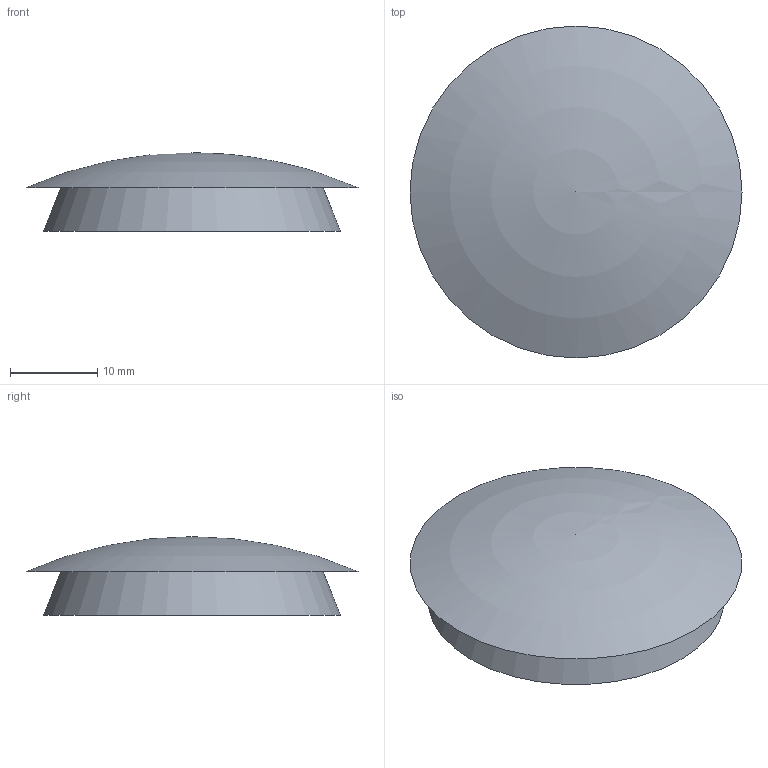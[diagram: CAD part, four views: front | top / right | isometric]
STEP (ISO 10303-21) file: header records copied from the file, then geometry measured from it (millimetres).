
FILE_DESCRIPTION(/* description */ (''),/* implementation_level */ '2;1');
FILE_NAME(/* name */ '\\NAS\db20\PR3-30\DR_PR3-30.stp',/* time_stamp */ '2017-09-22T11:54:49+09:00',/* author */ ('user'),/* organization */ (''),/* preprocessor_version */ 'ST-DEVELOPER v15.6',/* originating_system */ 'Autodesk Inventor 2015',/* authorisation */ '');
FILE_SCHEMA (('AUTOMOTIVE_DESIGN { 1 0 10303 214 3 1 1 }'));
Length unit declared in the file: millimetre
Products named in the file (1): DR_PR3-30
Bounding box: 38 x 38 x 9 mm (x, y, z)
Volume: 4149.9 mm3; surface area: 3466.2 mm2
Topology: 1 solids, 1 shells, 6 faces, 9 edges, 6 vertices
Faces by surface type: plane 3, cylinder 1, cone 1, sphere 1
Full cylindrical faces by diameter (mm): 21.5 x1
Entity records: 138 total; most frequent: DIRECTION 24, CARTESIAN_POINT 17, AXIS2_PLACEMENT_3D 12, EDGE_LOOP 10, ORIENTED_EDGE 10, FACE_OUTER_BOUND 6, ADVANCED_FACE 6, CIRCLE 5
